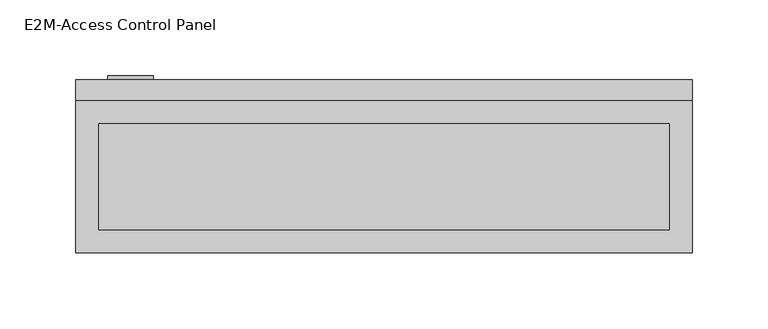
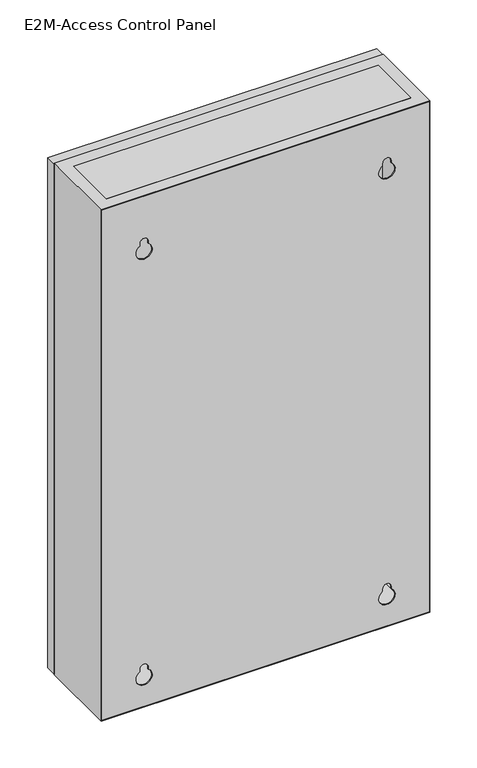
"""IFC4 building model written with IfcOpenShell, lengths in millimetres: proxy geometry, E2M_Access_Control_Panel_config6 : E2M-Access Control Panel."""

from ifc_helpers import new_model, si_unit, point, frame, frame_2d, origin, place, context, project, spatial, polyline, circle_curve, trimmed, segment, composite_curve, outline, extrude, source, transform, mapped, element, save


def e2m_access_control_panel_9290570a(model_context):
    return source(origin(), model_context, "Body", "SweptSolid", [
        extrude(outline(polyline([(188.0, 86.0), (188.0, 16.0), (-188.0, 16.0), (-188.0, 86.0), (188.0, 86.0)])), frame((0.0, 0.0, 988.1733261), z_axis=(0.0, 0.0, 1.0), x_axis=(1.0, 0.0, 0.0)), (0.0, 0.0, 1.0), 1.0),
        extrude(outline(polyline([(188.0, 86.0), (188.0, 16.0), (-188.0, 16.0), (-188.0, 86.0), (188.0, 86.0)])), frame((0.0, 0.0, 1655.1733261), z_axis=(0.0, 0.0, 1.0), x_axis=(1.0, 0.0, 0.0)), (0.0, 0.0, 1.0), 1.0),
        extrude(outline(composite_curve([segment(trimmed(circle_curve(frame_2d((1432.2477718, -167.0)), 15.0), [point((1432.2477718, -182.0))], [point((1432.2477718, -152.0))], False, "CARTESIAN"), True, "CONTINUOUS"), segment(trimmed(circle_curve(frame_2d((1432.2477718, -167.0)), 15.0), [point((1432.2477718, -152.0))], [point((1432.2477718, -182.0))], False, "CARTESIAN"), True, "CONTINUOUS")], self_intersect=False), holes=[composite_curve([segment(trimmed(circle_curve(frame_2d((1432.2477718, -167.0)), 10.0), [point((1432.2477718, -177.0))], [point((1432.2477718, -157.0))], True, "CARTESIAN"), True, "CONTINUOUS"), segment(trimmed(circle_curve(frame_2d((1432.2477718, -167.0)), 10.0), [point((1432.2477718, -157.0))], [point((1432.2477718, -177.0))], True, "CARTESIAN"), True, "CONTINUOUS")], self_intersect=False)]), frame((0.0, 115.0, 0.0), z_axis=(0.0, 1.0, 0.0), x_axis=(0.0, 0.0, 1.0)), (0.0, 0.0, 1.0), 2.4582379),
        extrude(outline(composite_curve([segment(trimmed(circle_curve(frame_2d((1432.2477718, -167.0)), 5.0), [point((1432.2477718, -172.0))], [point((1432.2477718, -162.0))], False, "CARTESIAN"), True, "CONTINUOUS"), segment(trimmed(circle_curve(frame_2d((1432.2477718, -167.0)), 5.0), [point((1432.2477718, -162.0))], [point((1432.2477718, -172.0))], False, "CARTESIAN"), True, "CONTINUOUS")], self_intersect=False)), frame((0.0, 115.0, 0.0), z_axis=(0.0, 1.0, 0.0), x_axis=(0.0, 0.0, 1.0)), (0.0, 0.0, 1.0), 2.4582379),
        extrude(outline(polyline([(1655.1733261, -202.0), (989.1733261, -202.0), (989.1733261, 202.0), (1655.1733261, 202.0), (1655.1733261, -202.0)]), holes=[composite_curve([segment(trimmed(circle_curve(frame_2d((1595.1733261, -150.0)), 5.0), [point((1595.1733261, -155.0))], [point((1595.1733261, -145.0))], True, "CARTESIAN"), True, "CONTINUOUS"), segment(polyline([(1595.1733261, -145.0), (1591.8774316, -145.0)]), True, "CONTINUOUS"), segment(trimmed(circle_curve(frame_2d((1583.2171775, -150.0)), 10.0), [point((1591.8774316, -145.0))], [point((1591.8774316, -155.0))], True, "CARTESIAN"), True, "CONTINUOUS"), segment(polyline([(1591.8774316, -155.0), (1595.1733261, -155.0)]), True, "CONTINUOUS")], self_intersect=False), composite_curve([segment(trimmed(circle_curve(frame_2d((1595.1733261, 150.0)), 5.0), [point((1595.1733261, 145.0))], [point((1595.1733261, 155.0))], True, "CARTESIAN"), True, "CONTINUOUS"), segment(polyline([(1595.1733261, 155.0), (1591.8774316, 155.0)]), True, "CONTINUOUS"), segment(trimmed(circle_curve(frame_2d((1583.2171775, 150.0)), 10.0), [point((1591.8774316, 155.0))], [point((1591.8774316, 145.0))], True, "CARTESIAN"), True, "CONTINUOUS"), segment(polyline([(1591.8774316, 145.0), (1595.1733261, 145.0)]), True, "CONTINUOUS")], self_intersect=False), composite_curve([segment(trimmed(circle_curve(frame_2d((1039.1733261, -150.0)), 5.0), [point((1039.1733261, -155.0))], [point((1039.1733261, -145.0))], True, "CARTESIAN"), True, "CONTINUOUS"), segment(polyline([(1039.1733261, -145.0), (1035.8774316, -145.0)]), True, "CONTINUOUS"), segment(trimmed(circle_curve(frame_2d((1027.2171775, -150.0)), 10.0), [point((1035.8774316, -145.0))], [point((1035.8774316, -155.0))], True, "CARTESIAN"), True, "CONTINUOUS"), segment(polyline([(1035.8774316, -155.0), (1039.1733261, -155.0)]), True, "CONTINUOUS")], self_intersect=False), composite_curve([segment(trimmed(circle_curve(frame_2d((1039.1733261, 150.0)), 5.0), [point((1039.1733261, 145.0))], [point((1039.1733261, 155.0))], True, "CARTESIAN"), True, "CONTINUOUS"), segment(polyline([(1039.1733261, 155.0), (1035.8774316, 155.0)]), True, "CONTINUOUS"), segment(trimmed(circle_curve(frame_2d((1027.2171775, 150.0)), 10.0), [point((1035.8774316, 155.0))], [point((1035.8774316, 145.0))], True, "CARTESIAN"), True, "CONTINUOUS"), segment(polyline([(1035.8774316, 145.0), (1039.1733261, 145.0)]), True, "CONTINUOUS")], self_intersect=False)]), frame((0.0, 1.0, 0.0), z_axis=(0.0, 1.0, 0.0), x_axis=(0.0, 0.0, 1.0)), (0.0, 0.0, 1.0), 1.0),
        extrude(outline(polyline([(203.0, 101.0), (-203.0, 101.0), (-203.0, 115.0), (203.0, 115.0), (203.0, 101.0)])), frame((0.0, 0.0, 989.1733261), z_axis=(0.0, 0.0, 1.0), x_axis=(1.0, 0.0, 0.0)), (0.0, 0.0, 1.0), 666.0),
        extrude(outline(polyline([(1656.1733261, -203.0), (988.1733261, -203.0), (988.1733261, 203.0), (1656.1733261, 203.0), (1656.1733261, -203.0)]), holes=[polyline([(1655.1733261, -202.0), (1655.1733261, 202.0), (989.1733261, 202.0), (989.1733261, -202.0), (1655.1733261, -202.0)])]), frame((0.0, 1.0, 0.0), z_axis=(0.0, 1.0, 0.0), x_axis=(0.0, 0.0, 1.0)), (0.0, 0.0, 1.0), 100.0),
    ])


if __name__ == "__main__":
    model = new_model("IFC4")
    model_context = context("Model", 3, world=origin())
    ifc_project = project(units=[si_unit("LENGTHUNIT", "METRE", prefix="MILLI")], contexts=[model_context])
    site = spatial("IfcSite", under=ifc_project)
    building = spatial("IfcBuilding", under=site)
    placement = place(None, origin())
    e2m_access_control_panel_shape = e2m_access_control_panel_9290570a(model_context)
    element("IfcBuildingElementProxy", 1, Name="E2M_Access_Control_Panel_config6 : E2M-Access Control Panel", ObjectType="E2M_Access_Control_Panel_config6 : E2M-Access Control Panel", at=placement, inside=building, context=model_context, shape_type="MappedRepresentation", body=[
        mapped(e2m_access_control_panel_shape, transform((0.0, 0.0, 0.0), x_axis=(1.0, 0.0, 0.0), y_axis=(0.0, 1.0, 0.0), z_axis=(0.0, 0.0, 1.0))),
    ])
    save(model, "model.ifc")
